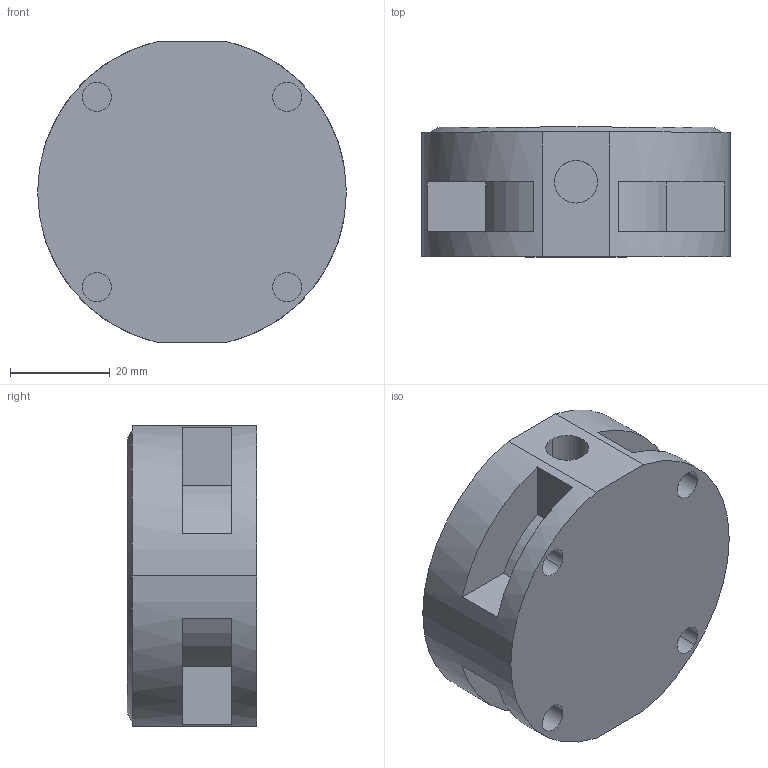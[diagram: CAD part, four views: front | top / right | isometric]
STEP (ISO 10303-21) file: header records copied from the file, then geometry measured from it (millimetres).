
FILE_DESCRIPTION( ( '' ), '1' );
FILE_NAME( 'C:/Documents and Settings/owner/官帕 拳搁/Cad Data/AMF/ZPS/K05_306175/Step/AMF306175.stp', '2012-03-06T05:21:26', ( '' ), ( '' ), ' ', ' ', ' ' );
FILE_SCHEMA( ( 'CONFIG_CONTROL_DESIGN' ) );
Length unit declared in the file: millimetre
Products named in the file (1): 1
Bounding box: 62 x 26 x 60.5 mm (x, y, z)
Volume: 63286.3 mm3; surface area: 14532.2 mm2
Topology: 1 solids, 1 shells, 59 faces, 140 edges, 90 vertices
Faces by surface type: cylinder 26, plane 25, cone 8
Entity records: 1762 total; most frequent: DIRECTION 324, CARTESIAN_POINT 286, ORIENTED_EDGE 272, EDGE_CURVE 136, AXIS2_PLACEMENT_3D 128, VERTEX_POINT 90, EDGE_LOOP 78, LINE 68
